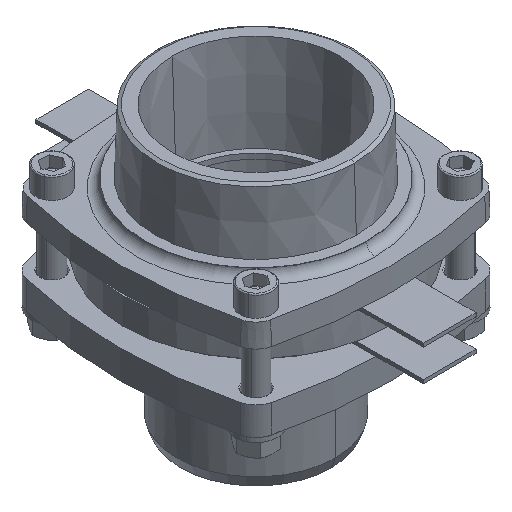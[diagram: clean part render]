
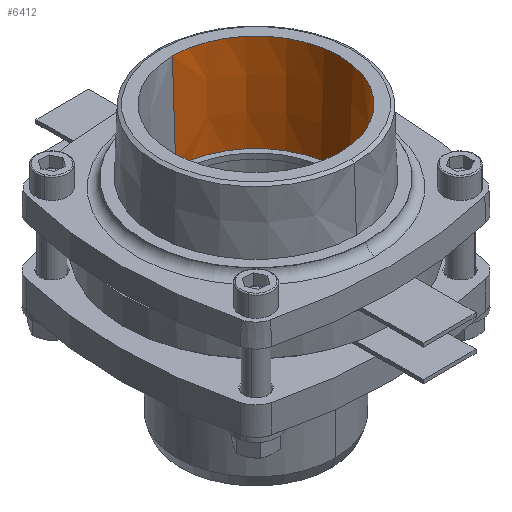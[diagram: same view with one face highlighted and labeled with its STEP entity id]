
A CAD part, isometric view. The second image highlights one B-rep face of the part: STEP entity #6412.
In plain terms, the highlighted conical face has half-angle 2 degrees and reference radius 47.5 mm.
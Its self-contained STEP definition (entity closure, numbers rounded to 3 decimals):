
#61 = CIRCLE ( 'NONE', #63, 45.614 ) ;
#63 = AXIS2_PLACEMENT_3D ( 'NONE', #15216, #15217, #15218 ) ;
#762 = EDGE_CURVE ( 'NONE', #11448, #11451, #61, .T. ) ;
#3328 = DIRECTION ( 'NONE',  ( 0., -1., 0. ) ) ;
#3337 = FACE_OUTER_BOUND ( 'NONE', #12040, .T. ) ;
#3339 = DIRECTION ( 'NONE',  ( 0., 0., 1. ) ) ;
#3341 = CARTESIAN_POINT ( 'NONE',  ( 26.76, 39.33, 35.219 ) ) ;
#3706 = CONICAL_SURFACE ( 'NONE', #3707, 47.5, 0.035 ) ;
#3707 = AXIS2_PLACEMENT_3D ( 'NONE', #3341, #3339, #3328 ) ;
#4625 = CARTESIAN_POINT ( 'NONE',  ( 26.76, -8.17, 35.219 ) ) ;
#4627 = CARTESIAN_POINT ( 'NONE',  ( 26.76, 86.83, 35.219 ) ) ;
#4632 = CARTESIAN_POINT ( 'NONE',  ( 26.76, -6.284, -18.781 ) ) ;
#4637 = CARTESIAN_POINT ( 'NONE',  ( 26.76, 84.944, -18.781 ) ) ;
#5381 = ORIENTED_EDGE ( 'NONE', *, *, #8502, .F. ) ;
#5383 = ORIENTED_EDGE ( 'NONE', *, *, #762, .F. ) ;
#5384 = ORIENTED_EDGE ( 'NONE', *, *, #8499, .T. ) ;
#5386 = ORIENTED_EDGE ( 'NONE', *, *, #8595, .T. ) ;
#6412 = ADVANCED_FACE ( 'NONE', ( #3337 ), #3706, .F. ) ;
#7516 = CARTESIAN_POINT ( 'NONE',  ( 26.76, -8.17, 35.219 ) ) ;
#7518 = LINE ( 'NONE', #7516, #10127 ) ;
#7523 = DIRECTION ( 'NONE',  ( 0., -0.035, 0.999 ) ) ;
#7525 = LINE ( 'NONE', #7532, #10131 ) ;
#7532 = CARTESIAN_POINT ( 'NONE',  ( 26.76, 86.83, 35.219 ) ) ;
#7533 = DIRECTION ( 'NONE',  ( 0., 0.035, 0.999 ) ) ;
#7810 = CARTESIAN_POINT ( 'NONE',  ( 26.76, 39.33, 35.219 ) ) ;
#7811 = DIRECTION ( 'NONE',  ( 0., 0., 1. ) ) ;
#7812 = DIRECTION ( 'NONE',  ( 0., -1., 0. ) ) ;
#8499 = EDGE_CURVE ( 'NONE', #11448, #11444, #7518, .T. ) ;
#8502 = EDGE_CURVE ( 'NONE', #11451, #11445, #7525, .T. ) ;
#8595 = EDGE_CURVE ( 'NONE', #11444, #11445, #10266, .T. ) ;
#10127 = VECTOR ( 'NONE', #7523, 1000. ) ;
#10131 = VECTOR ( 'NONE', #7533, 1000. ) ;
#10266 = CIRCLE ( 'NONE', #10269, 47.5 ) ;
#10269 = AXIS2_PLACEMENT_3D ( 'NONE', #7810, #7811, #7812 ) ;
#11444 = VERTEX_POINT ( 'NONE', #4625 ) ;
#11445 = VERTEX_POINT ( 'NONE', #4627 ) ;
#11448 = VERTEX_POINT ( 'NONE', #4632 ) ;
#11451 = VERTEX_POINT ( 'NONE', #4637 ) ;
#12040 = EDGE_LOOP ( 'NONE', ( #5381, #5383, #5384, #5386 ) ) ;
#15216 = CARTESIAN_POINT ( 'NONE',  ( 26.76, 39.33, -18.781 ) ) ;
#15217 = DIRECTION ( 'NONE',  ( 0., 0., 1. ) ) ;
#15218 = DIRECTION ( 'NONE',  ( 0., -1., 0. ) ) ;
